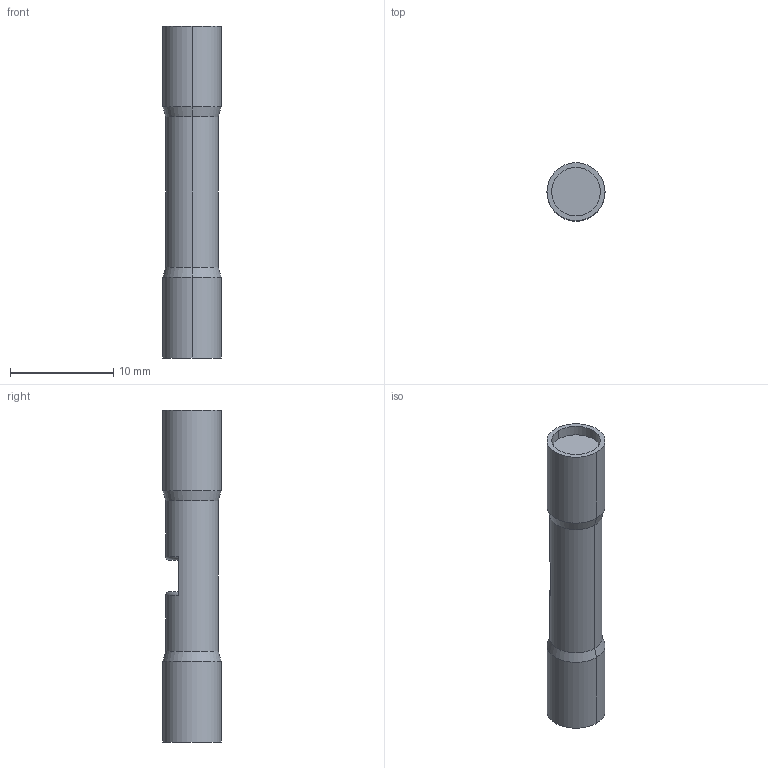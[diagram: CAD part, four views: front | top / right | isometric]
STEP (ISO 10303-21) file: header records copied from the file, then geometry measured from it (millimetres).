
FILE_DESCRIPTION((''),'2;1');
FILE_NAME('C-320559','2021-06-09T11:00:18',('workeradm'),('TE Connectivity Ltd.'),'CREO PARAMETRIC BY PTC INC, 2019292','CREO PARAMETRIC BY PTC INC, 2019292','');
FILE_SCHEMA(('AUTOMOTIVE_DESIGN { 1 0 10303 214 1 1 1 1 }'));
Length unit declared in the file: millimetre
Products named in the file (1): C-320559
Bounding box: 5.61 x 5.61 x 32.13 mm (x, y, z)
Volume: 681.5 mm3; surface area: 625.4 mm2
Topology: 1 solids, 1 shells, 23 faces, 49 edges, 30 vertices
Faces by surface type: cylinder 10, plane 7, cone 4, torus 2
Entity records: 1033 total; most frequent: CARTESIAN_POINT 136, COLOUR_RGB 126, DIRECTION 117, ORIENTED_EDGE 98, AXIS2_PLACEMENT_3D 49, EDGE_CURVE 49, PROPERTY_DEFINITION 42, REPRESENTATION 41
